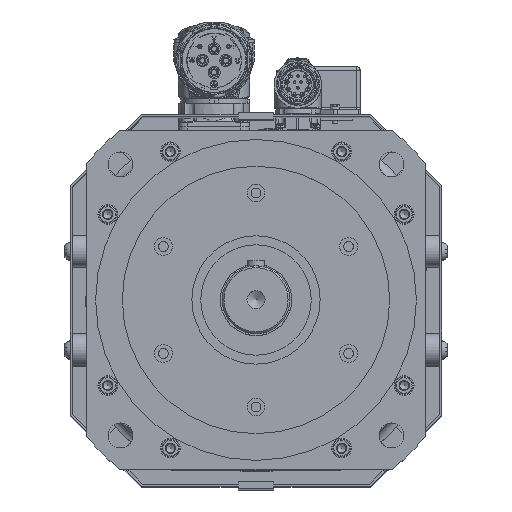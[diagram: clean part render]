
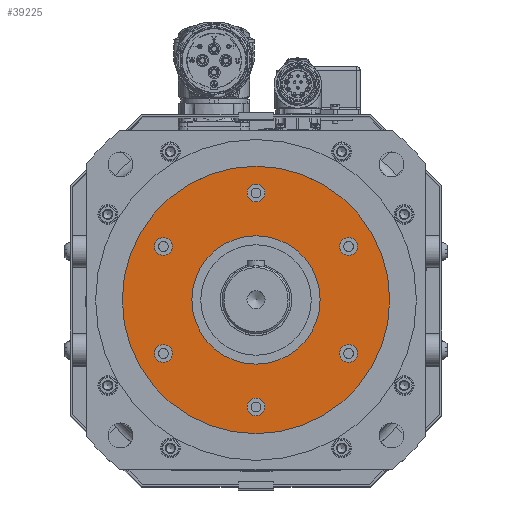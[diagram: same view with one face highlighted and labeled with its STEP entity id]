
A CAD part, top view. The second image highlights one B-rep face of the part: STEP entity #39225.
In plain terms, the highlighted planar face has unit normal (0, 0, 1).
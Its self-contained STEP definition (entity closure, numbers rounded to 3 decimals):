
#9215=FACE_BOUND('',#12707,.T.);
#9216=FACE_BOUND('',#12708,.T.);
#9217=FACE_BOUND('',#12709,.T.);
#9218=FACE_BOUND('',#12710,.T.);
#9219=FACE_BOUND('',#12711,.T.);
#9220=FACE_BOUND('',#12712,.T.);
#9221=FACE_BOUND('',#12713,.T.);
#9222=FACE_BOUND('',#12714,.T.);
#12707=EDGE_LOOP('',(#27259));
#12708=EDGE_LOOP('',(#27260));
#12709=EDGE_LOOP('',(#27261));
#12710=EDGE_LOOP('',(#27262));
#12711=EDGE_LOOP('',(#27263));
#12712=EDGE_LOOP('',(#27264));
#12713=EDGE_LOOP('',(#27265));
#12714=EDGE_LOOP('',(#27266));
#16076=CIRCLE('',#41800,5.);
#16080=CIRCLE('',#41807,5.);
#16084=CIRCLE('',#41814,5.);
#16088=CIRCLE('',#41821,5.);
#16092=CIRCLE('',#41828,5.);
#16096=CIRCLE('',#41835,5.);
#16117=CIRCLE('',#41869,36.);
#16118=CIRCLE('',#41872,75.);
#17988=VERTEX_POINT('',#57088);
#17992=VERTEX_POINT('',#57099);
#17996=VERTEX_POINT('',#57110);
#18000=VERTEX_POINT('',#57121);
#18004=VERTEX_POINT('',#57132);
#18008=VERTEX_POINT('',#57143);
#18029=VERTEX_POINT('',#57198);
#18030=VERTEX_POINT('',#57202);
#21775=EDGE_CURVE('',#17988,#17988,#16076,.T.);
#21779=EDGE_CURVE('',#17992,#17992,#16080,.T.);
#21783=EDGE_CURVE('',#17996,#17996,#16084,.T.);
#21787=EDGE_CURVE('',#18000,#18000,#16088,.T.);
#21791=EDGE_CURVE('',#18004,#18004,#16092,.T.);
#21795=EDGE_CURVE('',#18008,#18008,#16096,.T.);
#21816=EDGE_CURVE('',#18029,#18029,#16117,.T.);
#21817=EDGE_CURVE('',#18030,#18030,#16118,.T.);
#27259=ORIENTED_EDGE('',*,*,#21775,.T.);
#27260=ORIENTED_EDGE('',*,*,#21779,.T.);
#27261=ORIENTED_EDGE('',*,*,#21783,.T.);
#27262=ORIENTED_EDGE('',*,*,#21787,.T.);
#27263=ORIENTED_EDGE('',*,*,#21791,.T.);
#27264=ORIENTED_EDGE('',*,*,#21795,.T.);
#27265=ORIENTED_EDGE('',*,*,#21816,.T.);
#27266=ORIENTED_EDGE('',*,*,#21817,.F.);
#38102=PLANE('',#41874);
#39225=ADVANCED_FACE('',(#9215,#9216,#9217,#9218,#9219,#9220,#9221,#9222),
#38102,.F.);
#41800=AXIS2_PLACEMENT_3D('',#57089,#46199,#46200);
#41807=AXIS2_PLACEMENT_3D('',#57100,#46213,#46214);
#41814=AXIS2_PLACEMENT_3D('',#57111,#46227,#46228);
#41821=AXIS2_PLACEMENT_3D('',#57122,#46241,#46242);
#41828=AXIS2_PLACEMENT_3D('',#57133,#46255,#46256);
#41835=AXIS2_PLACEMENT_3D('',#57144,#46269,#46270);
#41869=AXIS2_PLACEMENT_3D('',#57199,#46337,#46338);
#41872=AXIS2_PLACEMENT_3D('',#57203,#46343,#46344);
#41874=AXIS2_PLACEMENT_3D('',#57206,#46347,#46348);
#46199=DIRECTION('center_axis',(0.,0.,-1.));
#46200=DIRECTION('ref_axis',(0.5,0.866,0.));
#46213=DIRECTION('center_axis',(0.,0.,-1.));
#46214=DIRECTION('ref_axis',(-0.5,0.866,0.));
#46227=DIRECTION('center_axis',(0.,0.,-1.));
#46228=DIRECTION('ref_axis',(-1.,0.,0.));
#46241=DIRECTION('center_axis',(0.,0.,-1.));
#46242=DIRECTION('ref_axis',(-0.5,-0.866,0.));
#46255=DIRECTION('center_axis',(0.,0.,-1.));
#46256=DIRECTION('ref_axis',(0.5,-0.866,0.));
#46269=DIRECTION('center_axis',(0.,0.,-1.));
#46270=DIRECTION('ref_axis',(1.,0.,0.));
#46337=DIRECTION('center_axis',(0.,0.,-1.));
#46338=DIRECTION('ref_axis',(-1.,0.,0.));
#46343=DIRECTION('center_axis',(0.,0.,-1.));
#46344=DIRECTION('ref_axis',(-1.,0.,0.));
#46347=DIRECTION('center_axis',(0.,0.,-1.));
#46348=DIRECTION('ref_axis',(-1.,0.,0.));
#57088=CARTESIAN_POINT('',(-49.462,34.33,15.));
#57089=CARTESIAN_POINT('Origin',(-51.962,30.,15.));
#57099=CARTESIAN_POINT('',(-54.462,-25.67,15.));
#57100=CARTESIAN_POINT('Origin',(-51.962,-30.,15.));
#57110=CARTESIAN_POINT('',(-5.,-60.,15.));
#57111=CARTESIAN_POINT('Origin',(0.,-60.,15.));
#57121=CARTESIAN_POINT('',(49.462,-34.33,15.));
#57122=CARTESIAN_POINT('Origin',(51.962,-30.,15.));
#57132=CARTESIAN_POINT('',(54.462,25.67,15.));
#57133=CARTESIAN_POINT('Origin',(51.962,30.,15.));
#57143=CARTESIAN_POINT('',(5.,60.,15.));
#57144=CARTESIAN_POINT('Origin',(0.,60.,15.));
#57198=CARTESIAN_POINT('',(36.,0.,15.));
#57199=CARTESIAN_POINT('Origin',(0.,0.,15.));
#57202=CARTESIAN_POINT('',(75.,0.,15.));
#57203=CARTESIAN_POINT('Origin',(0.,0.,15.));
#57206=CARTESIAN_POINT('Origin',(0.,0.,15.));
